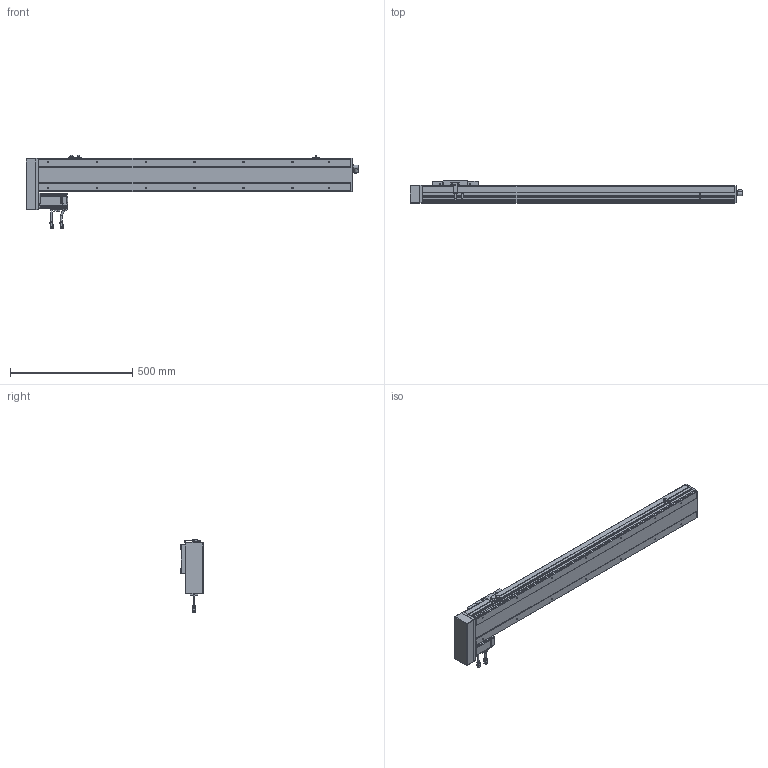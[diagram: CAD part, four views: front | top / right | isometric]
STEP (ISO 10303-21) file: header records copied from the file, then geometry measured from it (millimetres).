
FILE_DESCRIPTION(/* description */ ('STEP AP214'),/* implementation_level */ '2;1');
FILE_NAME(/* name */ 'PSC140-L05-S1000-BR-P40-C1-N(0)',/* time_stamp */ '2022-06-13T03:35:47+02:00',/* author */ ('License CC BY-ND 4.0'),/* organization */ ('CADENAS'),/* preprocessor_version */ 'ST-DEVELOPER v18.102',/* originating_system */ 'PARTsolutions',/* authorisation */ ' ');
FILE_SCHEMA (('AUTOMOTIVE_DESIGN {1 0 10303 214 3 1 1}'));
Length unit declared in the file: millimetre
Products named in the file (11): PSC140-L05-S1000-BR-P40-C1-N(0); P40-s2; P40-c2; P40-s1; P40-c1; P40-p1; PSC140-BR-body2; PSC140-sensor; PSC140-BR-SLIDER; PSC140-S1000-BR-P40-C1_BODY1; PSC140-L05-S1000-BR-P40-C1-N(0)_dummy
Assembly tree (12 placements, depth 2):
  PSC140-L05-S1000-BR-P40-C1-N(0)
    P40-s2
    P40-c2
    P40-s1
    P40-c1
    P40-p1
    PSC140-BR-body2
    PSC140-sensor  x3
    PSC140-BR-SLIDER
    PSC140-S1000-BR-P40-C1_BODY1
    PSC140-L05-S1000-BR-P40-C1-N(0)_dummy
Bounding box: 1358 x 91 x 300.88 mm (x, y, z)
Volume: 13705559.7 mm3; surface area: 785143.2 mm2
Topology: 11 solids, 11 shells, 1237 faces, 3189 edges, 2109 vertices
Faces by surface type: plane 860, cylinder 316, cone 42, torus 19
Full cylindrical faces by diameter (mm): 1 x8, 2.6 x10, 2.8 x3, 3.3 x8, 4.5 x12, 4.6 x3, 4.917 x18, 5 x4, 5.5 x8, 6 x10, 7 x10, 9 x2, 10 x1, 11 x1, 12 x1, 13.74 x1, 14 x1, 16.4 x2, 16.5 x1, 36 x1, 50 x2
Entity records: 34206 total; most frequent: CARTESIAN_POINT 5971, DIRECTION 5755, ORIENTED_EDGE 5546, EDGE_CURVE 2773, LINE 2097, VECTOR 2097, VERTEX_POINT 1930, AXIS2_PLACEMENT_3D 1829
